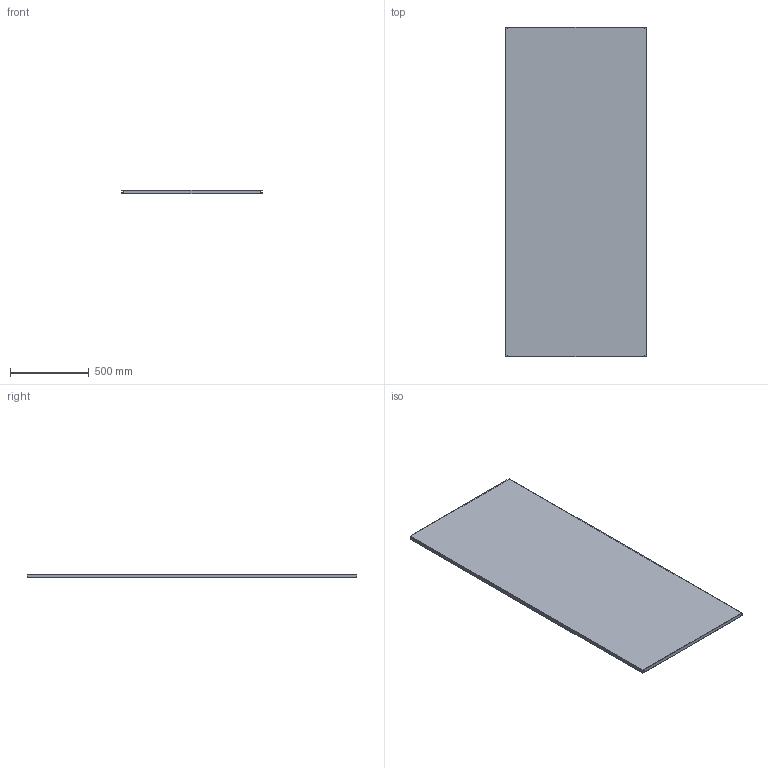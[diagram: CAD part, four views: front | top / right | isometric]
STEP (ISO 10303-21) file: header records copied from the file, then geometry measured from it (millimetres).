
FILE_DESCRIPTION( ( 'STEP AP214' ), '1' );
FILE_NAME( 'p:/temp/worker_144/temp/exporttempdir_1852_227_Q95se/format_0/MP2210(0).stp', '2021-03-15T23:26:08', ( 'License CC BY-ND 4.0' ), ( 'CADENAS' ), ' ', 'PARTsolutions', ' ' );
FILE_SCHEMA( ( 'AUTOMOTIVE_DESIGN { 1 0 10303 214 1 1 1 1 }' ) );
Length unit declared in the file: millimetre
Products named in the file (2): MP2210(0); _MP2210(0)_P1
Assembly tree (1 placements, depth 2):
  MP2210(0)
    _MP2210(0)_P1
Bounding box: 894 x 2094 x 24.5 mm (x, y, z)
Volume: 6190074 mm3; surface area: 4145430 mm2
Topology: 1 solids, 1 shells, 42 faces, 120 edges, 80 vertices
Faces by surface type: plane 42
Entity records: 1718 total; most frequent: CARTESIAN_POINT 244, ORIENTED_EDGE 240, DIRECTION 208, EDGE_CURVE 120, LINE 120, VECTOR 120, VERTEX_POINT 80, AXIS2_PLACEMENT_3D 44
